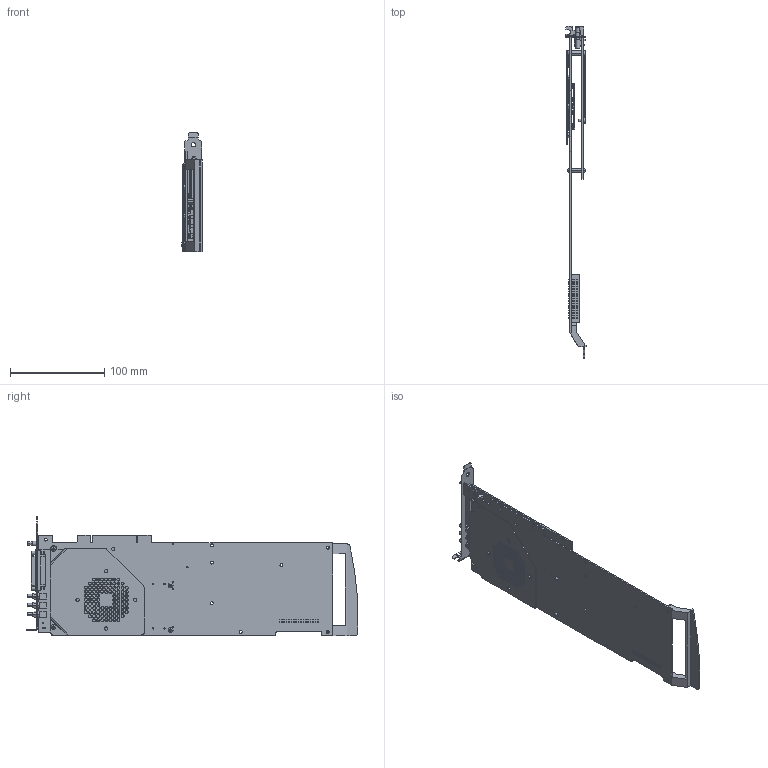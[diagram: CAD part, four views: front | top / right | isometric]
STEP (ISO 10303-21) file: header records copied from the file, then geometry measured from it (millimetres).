
FILE_DESCRIPTION((''),'2;1');
FILE_NAME('CU_PCI-5421','2010-01-18T',('jjorden'),(''),'PRO/ENGINEER BY PARAMETRIC TECHNOLOGY CORPORATION, 2006080','PRO/ENGINEER BY PARAMETRIC TECHNOLOGY CORPORATION, 2006080','');
FILE_SCHEMA(('CONFIG_CONTROL_DESIGN'));
Products named in the file (1): CU_PCI-5421
Bounding box: 22.07 x 352.36 x 126.37 mm (x, y, z)
Volume: 93388.4 mm3; surface area: 132753.3 mm2
Topology: 5 solids, 6 shells, 2421 faces, 6349 edges, 3993 vertices
Faces by surface type: plane 1477, cylinder 703, bspline 88, cone 68, sphere 48, torus 37
Entity records: 81394 total; most frequent: CARTESIAN_POINT 20175, ORIENTED_EDGE 12602, DIRECTION 12561, EDGE_CURVE 6301, VECTOR 4249, LINE 4249, VERTEX_POINT 4221, AXIS2_PLACEMENT_3D 4156
